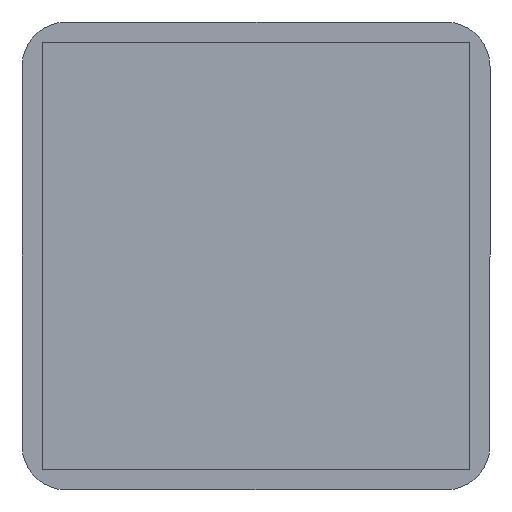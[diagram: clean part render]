
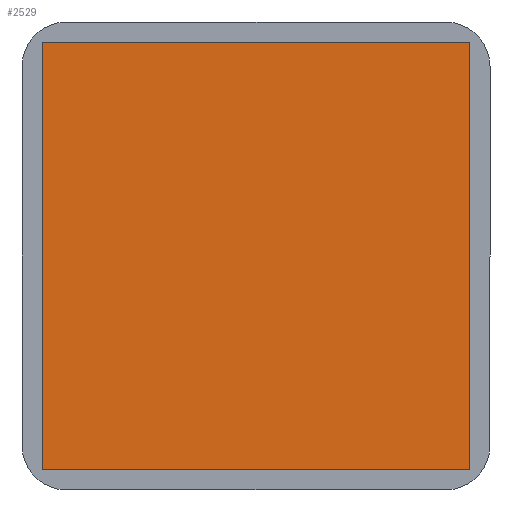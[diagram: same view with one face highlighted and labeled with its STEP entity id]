
A CAD part, front view. The second image highlights one B-rep face of the part: STEP entity #2529.
In plain terms, the highlighted planar face has unit normal (0, -1, 0).
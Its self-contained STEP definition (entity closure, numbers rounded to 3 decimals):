
#71 = DIRECTION ( 'NONE',  ( 1., 0., 0. ) ) ;
#247 = CARTESIAN_POINT ( 'NONE',  ( -8.5, -0.1, 8.5 ) ) ;
#288 = VERTEX_POINT ( 'NONE', #947 ) ;
#516 = AXIS2_PLACEMENT_3D ( 'NONE', #1818, #1636, #2464 ) ;
#521 = VERTEX_POINT ( 'NONE', #1993 ) ;
#790 = ORIENTED_EDGE ( 'NONE', *, *, #1964, .F. ) ;
#798 = PLANE ( 'NONE',  #516 ) ;
#856 = CARTESIAN_POINT ( 'NONE',  ( -8.5, -0.1, -8.5 ) ) ;
#928 = CARTESIAN_POINT ( 'NONE',  ( -8.5, -0.1, -8.5 ) ) ;
#947 = CARTESIAN_POINT ( 'NONE',  ( 8.5, -0.1, -8.5 ) ) ;
#1037 = LINE ( 'NONE', #856, #1909 ) ;
#1048 = DIRECTION ( 'NONE',  ( 0., 0., -1. ) ) ;
#1089 = VECTOR ( 'NONE', #1971, 1000. ) ;
#1099 = LINE ( 'NONE', #2514, #1487 ) ;
#1232 = VERTEX_POINT ( 'NONE', #928 ) ;
#1434 = CARTESIAN_POINT ( 'NONE',  ( -8.5, -0.1, -8.5 ) ) ;
#1487 = VECTOR ( 'NONE', #1048, 1000. ) ;
#1527 = VECTOR ( 'NONE', #71, 1000. ) ;
#1636 = DIRECTION ( 'NONE',  ( 0., 1., 0. ) ) ;
#1714 = CARTESIAN_POINT ( 'NONE',  ( -8.5, -0.1, 8.5 ) ) ;
#1818 = CARTESIAN_POINT ( 'NONE',  ( -8.5, -0.1, 8.5 ) ) ;
#1858 = DIRECTION ( 'NONE',  ( -1., 0., 0. ) ) ;
#1890 = EDGE_CURVE ( 'NONE', #288, #1232, #1037, .T. ) ;
#1909 = VECTOR ( 'NONE', #1858, 1000. ) ;
#1947 = VERTEX_POINT ( 'NONE', #247 ) ;
#1964 = EDGE_CURVE ( 'NONE', #1947, #521, #2136, .T. ) ;
#1968 = ORIENTED_EDGE ( 'NONE', *, *, #2084, .F. ) ;
#1971 = DIRECTION ( 'NONE',  ( 0., 0., 1. ) ) ;
#1993 = CARTESIAN_POINT ( 'NONE',  ( 8.5, -0.1, 8.5 ) ) ;
#2084 = EDGE_CURVE ( 'NONE', #1232, #1947, #2612, .T. ) ;
#2136 = LINE ( 'NONE', #1714, #1527 ) ;
#2348 = ORIENTED_EDGE ( 'NONE', *, *, #2619, .F. ) ;
#2464 = DIRECTION ( 'NONE',  ( 0., 0., 1. ) ) ;
#2514 = CARTESIAN_POINT ( 'NONE',  ( 8.5, -0.1, -8.5 ) ) ;
#2529 = ADVANCED_FACE ( 'NONE', ( #2652 ), #798, .F. ) ;
#2540 = ORIENTED_EDGE ( 'NONE', *, *, #1890, .F. ) ;
#2612 = LINE ( 'NONE', #1434, #1089 ) ;
#2619 = EDGE_CURVE ( 'NONE', #521, #288, #1099, .T. ) ;
#2652 = FACE_OUTER_BOUND ( 'NONE', #2667, .T. ) ;
#2667 = EDGE_LOOP ( 'NONE', ( #1968, #2540, #2348, #790 ) ) ;
